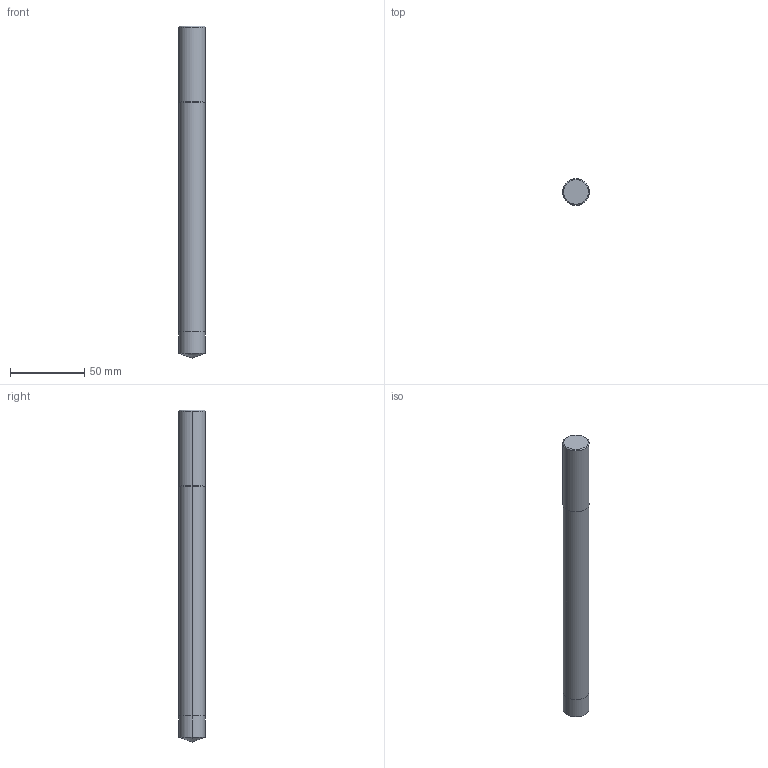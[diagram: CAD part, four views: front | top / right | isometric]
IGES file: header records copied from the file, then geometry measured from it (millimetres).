
Start section: 3D InterOp IGES (v. 2020 1.0.1), Spatial Corp. Copyright (c) 1999-2017.
Global section: file name: WZB12225_17.5.igs; native system: Spatial Corp.; preprocessor: 3D InterOp GENERIC/IGES 3.0; author: Noname; organization: Noname; date: 20201104.104751; units: metre
Bounding box: 18 x 18 x 223 mm (x, y, z)
Surface area: 12648.5 mm2 (no closed solid volume)
Topology: 0 solids, 0 shells, 14 faces, 54 edges, 52 vertices
Faces by surface type: revolution 12, extrusion 2
